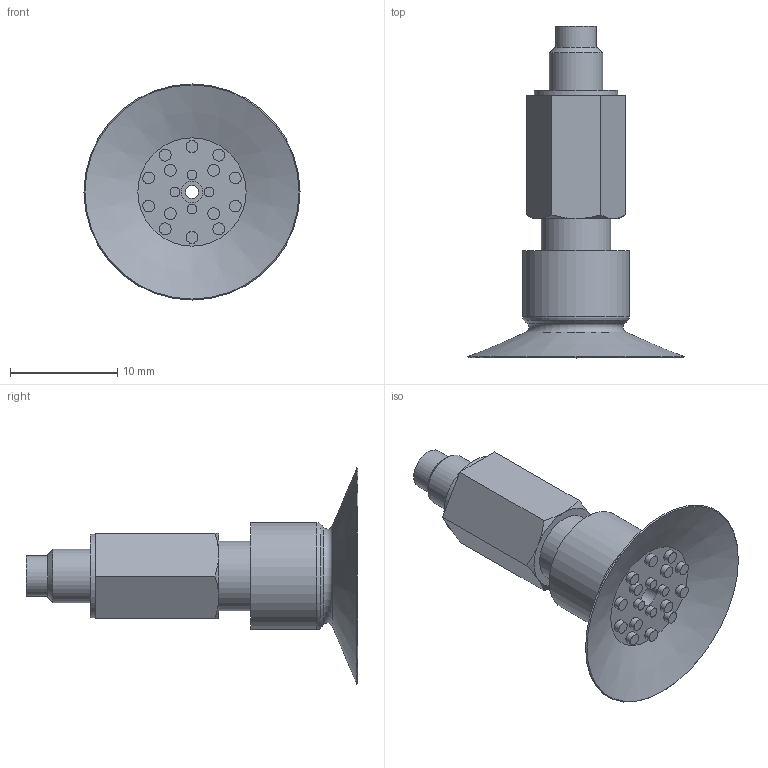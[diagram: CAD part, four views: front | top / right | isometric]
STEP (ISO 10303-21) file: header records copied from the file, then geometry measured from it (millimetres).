
FILE_DESCRIPTION(('STEP AP214'),'1');
FILE_NAME('.stp','2024-08-12T00:28:08',(' '),(' '),'Spatial InterOp 3D',' ',' ');
FILE_SCHEMA(('AUTOMOTIVE_DESIGN { 1 0 10303 214 1 1 1 1 }'));
Length unit declared in the file: millimetre
Products named in the file (4): BPSS-L3-BPAG-20A-※; PSS-20A-L3-M; PSS-20A-L3-F; BPAG-20A-※
Assembly tree (3 placements, depth 2):
  BPSS-L3-BPAG-20A-※
    PSS-20A-L3-M
    PSS-20A-L3-F
    BPAG-20A-※
Bounding box: 20.19 x 31 x 20.19 mm (x, y, z)
Volume: 1422.4 mm3; surface area: 2331.6 mm2
Topology: 3 solids, 3 shells, 91 faces, 159 edges, 102 vertices
Faces by surface type: plane 40, cylinder 33, cone 11, torus 7
Full cylindrical faces by diameter (mm): 0.9 x4, 1.1 x14, 1.2 x1, 2 x1, 2.4 x2, 3.4 x1, 3.8 x1, 4 x2, 5 x1, 6 x2, 6.5 x2, 7.8 x1, 10 x1
Entity records: 3028 total; most frequent: DIRECTION 370, CARTESIAN_POINT 323, ORIENTED_EDGE 216, AXIS2_PLACEMENT_3D 179, EDGE_LOOP 170, STYLED_ITEM 146, PRESENTATION_STYLE_ASSIGNMENT 146, COLOUR_RGB 146
